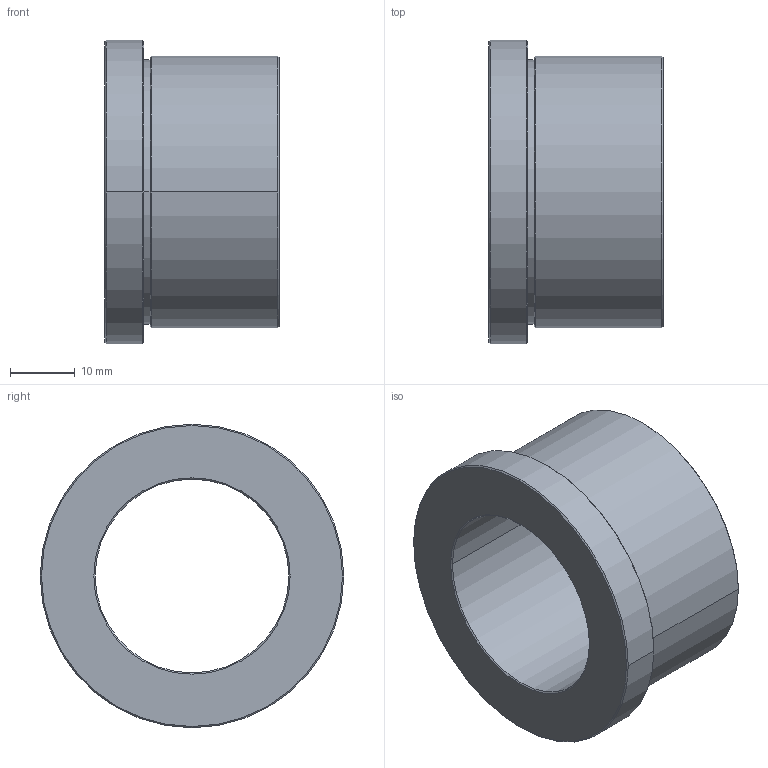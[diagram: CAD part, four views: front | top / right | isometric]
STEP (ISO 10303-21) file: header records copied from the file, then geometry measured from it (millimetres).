
FILE_DESCRIPTION (( 'STEP AP214' ), '1' );
FILE_NAME ('R03_027x30.STEP', '2015-03-05T14:47:20', ( 'TGL' ), ( '' ), 'SwSTEP 2.0', 'SolidWorks 2011', '' );
FILE_SCHEMA (( 'AUTOMOTIVE_DESIGN' ));
Length unit declared in the file: millimetre
Products named in the file (1): R03_027x30
Bounding box: 27 x 47 x 47 mm (x, y, z)
Volume: 19945.3 mm3; surface area: 8143 mm2
Topology: 1 solids, 1 shells, 24 faces, 48 edges, 28 vertices
Faces by surface type: cone 10, cylinder 8, plane 4, torus 2
Entity records: 730 total; most frequent: DIRECTION 128, CARTESIAN_POINT 101, ORIENTED_EDGE 96, AXIS2_PLACEMENT_3D 55, EDGE_CURVE 48, CIRCLE 30, VERTEX_POINT 28, EDGE_LOOP 28
